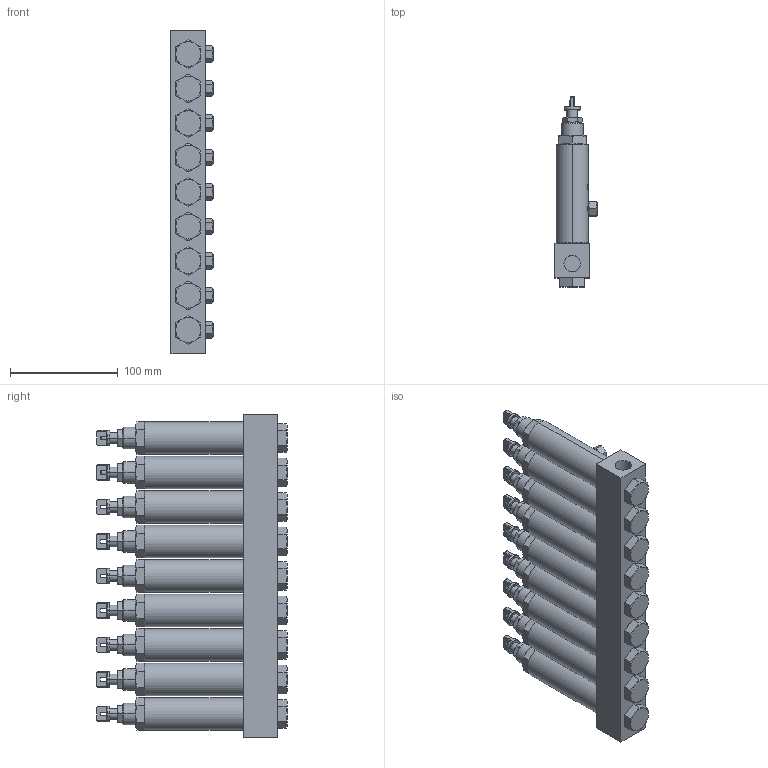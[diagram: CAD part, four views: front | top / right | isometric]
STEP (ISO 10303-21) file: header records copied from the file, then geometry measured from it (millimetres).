
FILE_DESCRIPTION (( 'STEP AP203' ), '1' );
FILE_NAME ('ASL-09.STEP', '2020-04-18T03:38:59', ( '个人用户' ), ( '微软中国' ), 'SwSTEP 2.0', 'SolidWorks 2018', '' );
FILE_SCHEMA (( 'CONFIG_CONTROL_DESIGN' ));
Length unit declared in the file: millimetre
Products named in the file (1): ASL-09
Bounding box: 39 x 176.5 x 300 mm (x, y, z)
Surface area: 171980.1 mm2 (no closed solid volume)
Topology: 0 solids, 78 shells, 923 faces, 2562 edges, 1708 vertices
Faces by surface type: plane 505, cone 262, cylinder 134, torus 18, sphere 4
Entity records: 34290 total; most frequent: CARTESIAN_POINT 11424, ORIENTED_EDGE 4566, DIRECTION 4542, EDGE_CURVE 2552, VERTEX_POINT 1702, AXIS2_PLACEMENT_3D 1680, VECTOR 1182, LINE 1182
